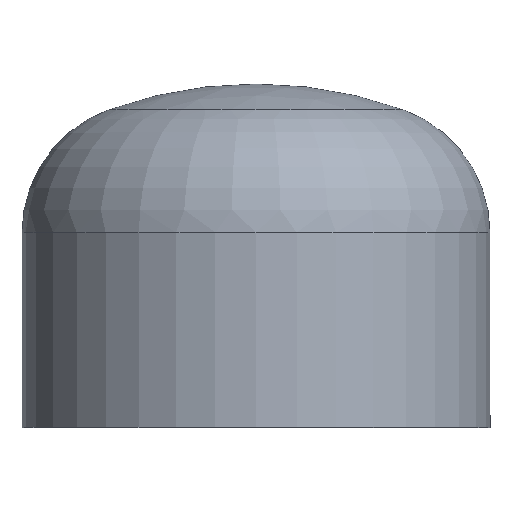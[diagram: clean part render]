
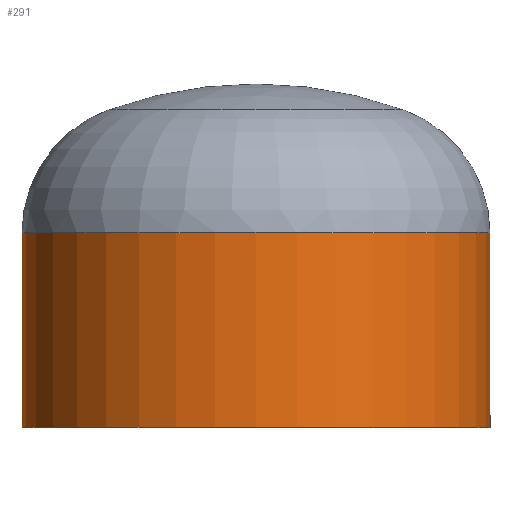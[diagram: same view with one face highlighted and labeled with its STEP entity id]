
A CAD part, top view. The second image highlights one B-rep face of the part: STEP entity #291.
In plain terms, the highlighted cylindrical face has radius 84.15 mm (diameter 168.3 mm), a partial arc.
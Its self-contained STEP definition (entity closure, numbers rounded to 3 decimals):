
#6 = VERTEX_POINT ( 'NONE', #287 ) ;
#8 = AXIS2_PLACEMENT_3D ( 'NONE', #252, #401, #271 ) ;
#17 = ORIENTED_EDGE ( 'NONE', *, *, #72, .T. ) ;
#21 = ORIENTED_EDGE ( 'NONE', *, *, #410, .T. ) ;
#22 = VERTEX_POINT ( 'NONE', #371 ) ;
#45 = AXIS2_PLACEMENT_3D ( 'NONE', #164, #165, #130 ) ;
#67 = DIRECTION ( 'NONE',  ( 1., 0., 0. ) ) ;
#70 = ORIENTED_EDGE ( 'NONE', *, *, #387, .F. ) ;
#72 = EDGE_CURVE ( 'NONE', #97, #22, #382, .T. ) ;
#89 = VERTEX_POINT ( 'NONE', #243 ) ;
#97 = VERTEX_POINT ( 'NONE', #345 ) ;
#130 = DIRECTION ( 'NONE',  ( 1., 0., 0. ) ) ;
#164 = CARTESIAN_POINT ( 'NONE',  ( 0., 0., 0. ) ) ;
#165 = DIRECTION ( 'NONE',  ( 0., -1., 0. ) ) ;
#200 = DIRECTION ( 'NONE',  ( 0., -1., 0. ) ) ;
#201 = CIRCLE ( 'NONE', #270, 84.15 ) ;
#229 = DIRECTION ( 'NONE',  ( 0., -1., 0. ) ) ;
#232 = CARTESIAN_POINT ( 'NONE',  ( -84.15, 0., 0. ) ) ;
#243 = CARTESIAN_POINT ( 'NONE',  ( 84.15, 70., 0. ) ) ;
#252 = CARTESIAN_POINT ( 'NONE',  ( 0., 0., 0. ) ) ;
#269 = VECTOR ( 'NONE', #200, 1000. ) ;
#270 = AXIS2_PLACEMENT_3D ( 'NONE', #403, #273, #67 ) ;
#271 = DIRECTION ( 'NONE',  ( 1., 0., 0. ) ) ;
#273 = DIRECTION ( 'NONE',  ( 0., -1., 0. ) ) ;
#287 = CARTESIAN_POINT ( 'NONE',  ( 84.15, 0., 0. ) ) ;
#291 = ADVANCED_FACE ( 'NONE', ( #407 ), #399, .T. ) ;
#321 = LINE ( 'NONE', #332, #269 ) ;
#324 = VECTOR ( 'NONE', #229, 1000. ) ;
#332 = CARTESIAN_POINT ( 'NONE',  ( 84.15, 0., 0. ) ) ;
#338 = EDGE_LOOP ( 'NONE', ( #21, #17, #70, #390 ) ) ;
#345 = CARTESIAN_POINT ( 'NONE',  ( -84.15, 70., 0. ) ) ;
#371 = CARTESIAN_POINT ( 'NONE',  ( -84.15, 0., 0. ) ) ;
#376 = EDGE_CURVE ( 'NONE', #89, #6, #321, .T. ) ;
#377 = CIRCLE ( 'NONE', #8, 84.15 ) ;
#382 = LINE ( 'NONE', #232, #324 ) ;
#387 = EDGE_CURVE ( 'NONE', #6, #22, #377, .T. ) ;
#390 = ORIENTED_EDGE ( 'NONE', *, *, #376, .F. ) ;
#399 = CYLINDRICAL_SURFACE ( 'NONE', #45, 84.15 ) ;
#401 = DIRECTION ( 'NONE',  ( 0., -1., 0. ) ) ;
#403 = CARTESIAN_POINT ( 'NONE',  ( 0., 70., 0. ) ) ;
#407 = FACE_OUTER_BOUND ( 'NONE', #338, .T. ) ;
#410 = EDGE_CURVE ( 'NONE', #89, #97, #201, .T. ) ;
